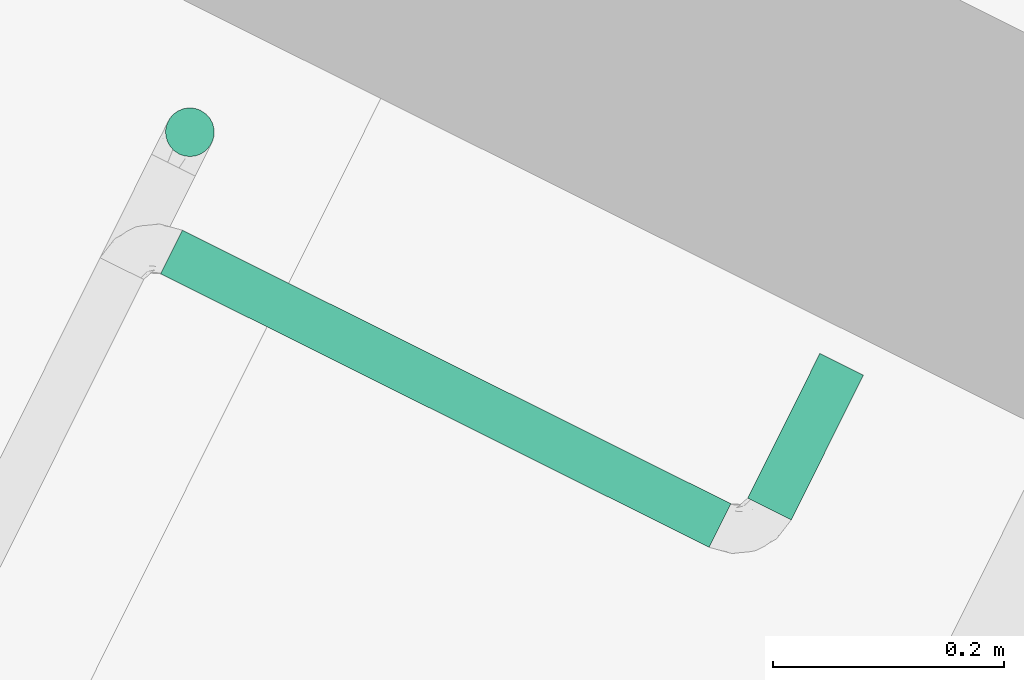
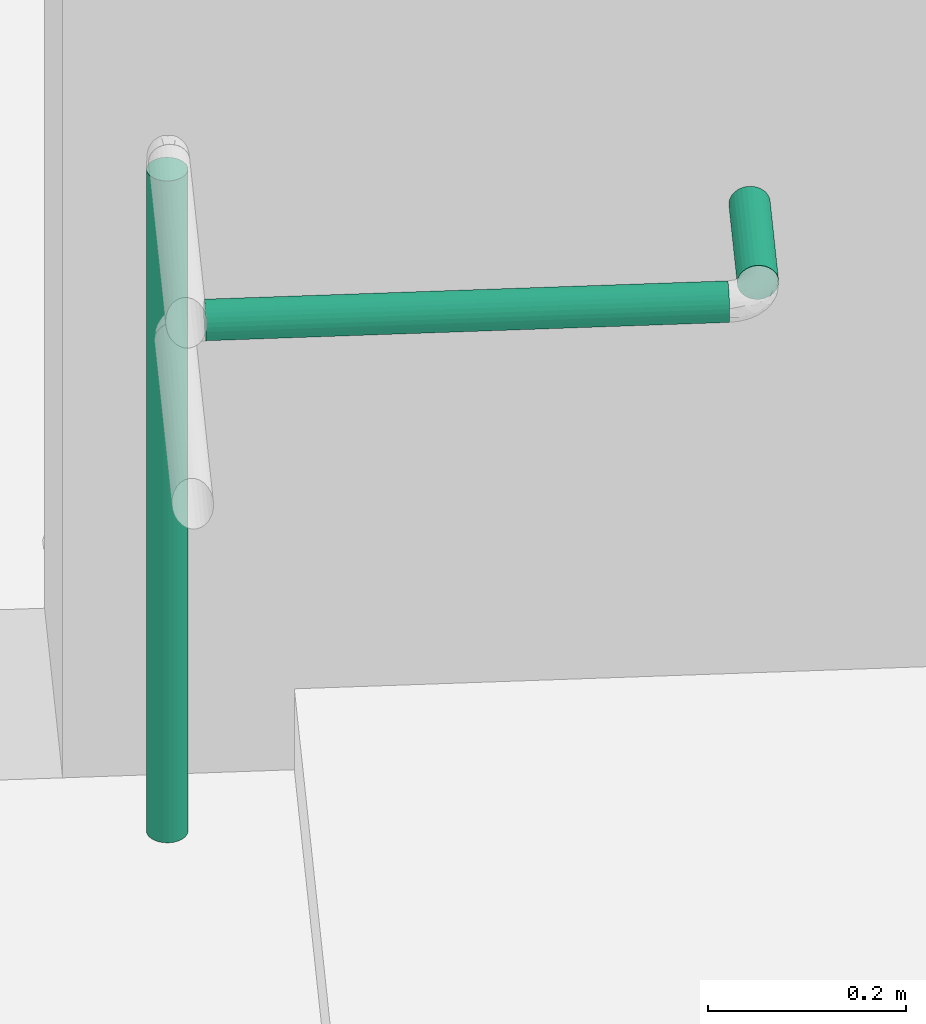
# One storey, part 23 of 34: 3 flow segments.
"""IFC2X3 building model written with IfcOpenShell, lengths in metres."""

from ifc_helpers import new_model, entity, si_unit, converted_unit, derived_unit, direction, frame, frame_2d, origin, origin_2d_with_axis, place, context, subcontext, project, spatial, circle, extrude, type_object, element, save


model = new_model("IFC2X3")

# Units and contexts
model_context = context("Model", 3, precision=1e-05, world=origin(), true_north=direction((0.894925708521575, 0.446215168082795)))
context_of_model = context(None, 3, precision=1e-05, world=origin(), true_north=direction((0.894925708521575, 0.446215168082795)))
body_context = subcontext(model_context, "Body", "Model", "MODEL_VIEW")
ifc_project = project(units=[si_unit("LENGTHUNIT", "METRE"), si_unit("AREAUNIT", "SQUARE_METRE"), si_unit("VOLUMEUNIT", "CUBIC_METRE"), converted_unit("PLANEANGLEUNIT", "DEGREE", entity("IfcRatioMeasure", 0.0174532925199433), si_unit("PLANEANGLEUNIT", "RADIAN"), dimensions=[0, 0, 0, 0, 0, 0, 0]), si_unit("MASSUNIT", "GRAM", prefix="KILO"), si_unit("TIMEUNIT", "SECOND"), si_unit("FREQUENCYUNIT", "HERTZ"), si_unit("THERMODYNAMICTEMPERATUREUNIT", "DEGREE_CELSIUS"), derived_unit("THERMALTRANSMITTANCEUNIT", [(si_unit("MASSUNIT", "GRAM", prefix="KILO"), 1), (si_unit("THERMODYNAMICTEMPERATUREUNIT", "KELVIN"), -1), (si_unit("TIMEUNIT", "SECOND"), -3)]), derived_unit("VOLUMETRICFLOWRATEUNIT", [(si_unit("LENGTHUNIT", "METRE"), 3), (si_unit("TIMEUNIT", "SECOND"), -1)]), si_unit("ELECTRICCURRENTUNIT", "AMPERE"), si_unit("ELECTRICVOLTAGEUNIT", "VOLT"), si_unit("POWERUNIT", "WATT"), si_unit("FORCEUNIT", "NEWTON", prefix="KILO"), si_unit("ILLUMINANCEUNIT", "LUX"), si_unit("LUMINOUSFLUXUNIT", "LUMEN"), si_unit("LUMINOUSINTENSITYUNIT", "CANDELA"), si_unit("PRESSUREUNIT", "PASCAL")], contexts=[model_context, context_of_model])

# Site, building, storey
site_placement = place(None, frame((218.228324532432, 584.720189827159, 0.0), z_axis=(0.0, 0.0, 1.0), x_axis=(0.446215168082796, 0.894925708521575, 0.0)))
site = spatial("IfcSite", under=ifc_project, at=site_placement, Name="Default", CompositionType="ELEMENT")
building_placement = place(site_placement, origin())
building = spatial("IfcBuilding", under=site, at=building_placement, CompositionType="ELEMENT")
storey_placement = place(building_placement, frame((0.0, 0.0, 8.61)))
storey = spatial("IfcBuildingStorey", under=building, at=storey_placement, Name="2 - Piano Secondo", CompositionType="ELEMENT", Elevation=8.61)

# Flow segments
pipe_segment_type = type_object("IfcPipeSegmentType", Name="Tubazione:Antincendio-Tubazione", PredefinedType="NOTDEFINED")
flow_segment_1_placement = place(storey_placement, frame((2.89153770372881, -12.4387562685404, 0.0)))
element("IfcFlowSegment", 1, at=flow_segment_1_placement, inside=storey, type_object=pipe_segment_type, Name="Tubazione:Antincendio-Tubazione", ObjectType="Tubazione:Antincendio-Tubazione", context=body_context, shape_type="SweptSolid", body=[
    extrude(circle(Radius=0.021082, at=frame_2d((0.0, -2.16573425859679e-15), x_axis=(1.0, 0.0))), frame((0.0226772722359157, 0.0226772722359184, 0.0)), (0.0, 0.0, 1.0), 0.818),
])
flow_segment_2_placement = place(storey_placement, frame((2.79153770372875, -12.9790789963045, 0.677322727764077)))
element("IfcFlowSegment", 2, at=flow_segment_2_placement, inside=storey, type_object=pipe_segment_type, Name="Tubazione:Antincendio-Tubazione", ObjectType="Tubazione:Antincendio-Tubazione", context=body_context, shape_type="SweptSolid", body=[
    extrude(circle(Radius=0.021082, at=origin_2d_with_axis()), frame((0.0226772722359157, 0.0, 0.0226772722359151), z_axis=(0.0, 1.0, 0.0), x_axis=(1.0, 0.0, 0.0)), (0.0, 0.0, 1.0), 0.53100000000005),
])
flow_segment_3_placement = place(storey_placement, frame((2.84621497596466, -13.0337562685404, 0.677322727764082)))
element("IfcFlowSegment", 3, at=flow_segment_3_placement, inside=storey, type_object=pipe_segment_type, Name="Tubazione:Antincendio-Tubazione", ObjectType="Tubazione:Antincendio-Tubazione", context=body_context, shape_type="SweptSolid", body=[
    extrude(circle(Radius=0.021082, at=origin_2d_with_axis()), frame((0.0, 0.0226772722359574, 0.0226772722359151), z_axis=(1.0, 0.0, 0.0), x_axis=(0.0, -1.0, 0.0)), (0.0, 0.0, 1.0), 0.14),
])

save(model, "model.ifc")
